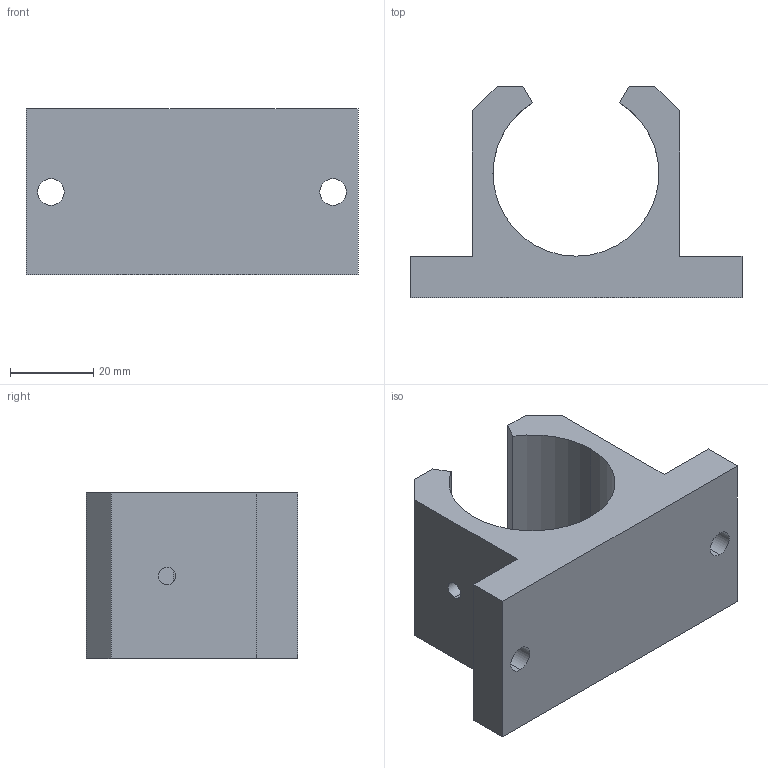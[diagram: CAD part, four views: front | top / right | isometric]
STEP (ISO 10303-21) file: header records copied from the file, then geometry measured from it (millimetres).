
FILE_DESCRIPTION (( 'STEP AP214' ), '1' );
FILE_NAME ('KALGSO-25.step', '2020-03-04T13:16:16', ( '' ), ( '' ), 'SwSTEP 2.0', 'SolidWorks 2019', '' );
FILE_SCHEMA (( 'AUTOMOTIVE_DESIGN' ));
Length unit declared in the file: millimetre
Products named in the file (1): KALGSO-25
Bounding box: 80 x 51 x 40 mm (x, y, z)
Volume: 59567.9 mm3; surface area: 17012 mm2
Topology: 1 solids, 1 shells, 24 faces, 69 edges, 46 vertices
Faces by surface type: plane 15, cylinder 9
Entity records: 909 total; most frequent: CARTESIAN_POINT 200, ORIENTED_EDGE 138, DIRECTION 131, EDGE_CURVE 69, VECTOR 49, LINE 49, VERTEX_POINT 46, AXIS2_PLACEMENT_3D 41
